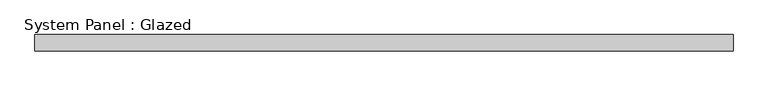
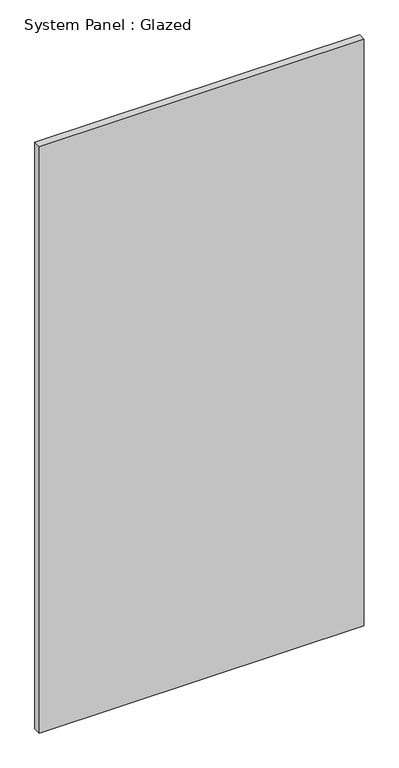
"""IFC4 building model written with IfcOpenShell, lengths in millimetres: plate geometry, System Panel : Glazed."""

from ifc_helpers import new_model, si_unit, origin, origin_with_axes, place, context, project, spatial, polyline, outline, extrude, source, transform, mapped, element, save


def system_panel_glazed_f20beefc(model_context):
    return source(origin(), model_context, "Body", "SweptSolid", [
        extrude(outline(polyline([(542.1312498, 19.05), (-542.1312498, 19.05), (-542.1312498, 44.45), (542.1312498, 44.45), (542.1312498, 19.05)])), origin_with_axes(), (0.0, 0.0, 1.0), 2070.1),
    ])


if __name__ == "__main__":
    model = new_model("IFC4")
    model_context = context("Model", 3, world=origin())
    ifc_project = project(units=[si_unit("LENGTHUNIT", "METRE", prefix="MILLI")], contexts=[model_context])
    site = spatial("IfcSite", under=ifc_project)
    building = spatial("IfcBuilding", under=site)
    placement = place(None, origin())
    system_panel_glazed_shape = system_panel_glazed_f20beefc(model_context)
    element("IfcPlate", 1, ObjectType="System Panel : Glazed", at=placement, inside=building, context=model_context, shape_type="MappedRepresentation", body=[
        mapped(system_panel_glazed_shape, transform((0.0, 0.0, 0.0), x_axis=(1.0, 0.0, 0.0), y_axis=(0.0, 1.0, 0.0), z_axis=(0.0, 0.0, 1.0))),
    ])
    save(model, "model.ifc")
